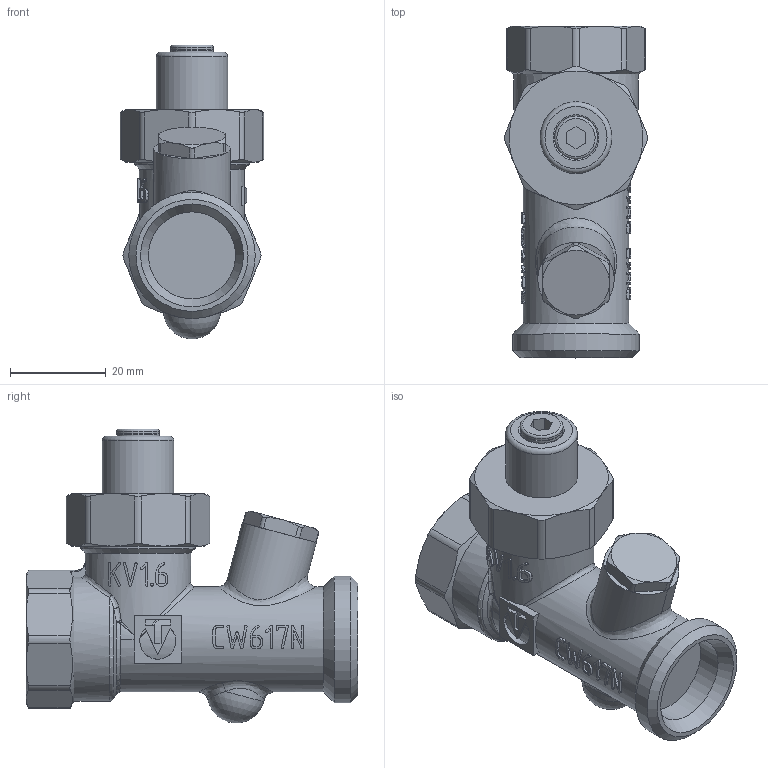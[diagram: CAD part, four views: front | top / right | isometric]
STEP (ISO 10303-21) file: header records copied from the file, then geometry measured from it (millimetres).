
FILE_DESCRIPTION(('STEP AP203'), '1');
FILE_NAME('ÂÐ.493116.001.000 ÑÁ - VT.062.N.04 Êëàï. çàï.-ðåã', '2024-05-07T13:12:57', ('User'), ('Vesta'), 'C3D Converter', 'C3D Toolkit', '');
FILE_SCHEMA(('CONFIG_CONTROL_DESIGN'));
Length unit declared in the file: millimetre
Products named in the file (13): ВР.493116.001.000 СБ; ВР.731618.014; ВР.305319.007.000; ВР.753125.011; ВР.493116.001.001; ВР.716721.003; ВР.716721.002; ВР.493116.001.002; ВР.714661.001; ВР.758421.037
Assembly tree (13 placements, depth 4):
  ВР.493116.001.000 СБ
    ВР.731618.014
    ВР.305319.007.000
      ВР.753125.011
      (unnamed)
    ВР.493116.001.001
      ВР.716721.003
        ВР.716721.002
      (unnamed)  x2
    ВР.493116.001.002
      ВР.714661.001
      (unnamed)
    ВР.758421.037
Bounding box: 29.98 x 69.4 x 61.49 mm (x, y, z)
Volume: 41081.9 mm3; surface area: 12278.4 mm2
Topology: 1 solids, 1 shells, 660 faces, 1808 edges, 1187 vertices
Faces by surface type: extrusion 266, plane 243, cylinder 89, cone 37, bspline 19, torus 5, sphere 1
Full cylindrical faces by diameter (mm): 7 x1, 7.1 x1, 8.9 x1, 9 x2, 15 x1, 16 x1, 18.2 x1, 18.632 x1, 22 x2, 24 x1, 26.441 x1
Entity records: 34454 total; most frequent: CARTESIAN_POINT 18995, ORIENTED_EDGE 3510, DIRECTION 2162, EDGE_CURVE 1755, VERTEX_POINT 1183, B_SPLINE_CURVE_WITH_KNOTS 973, VECTOR 946, EDGE_LOOP 721
